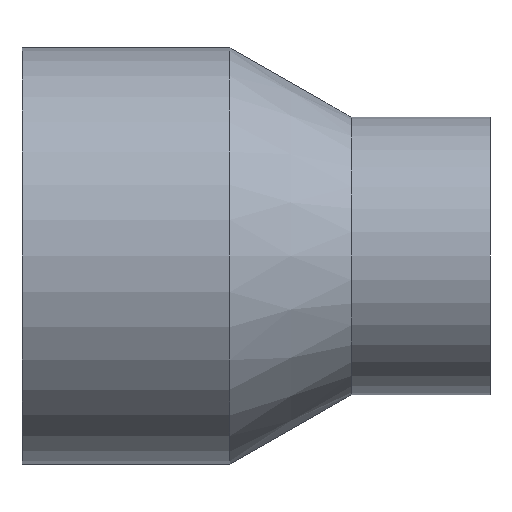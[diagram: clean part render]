
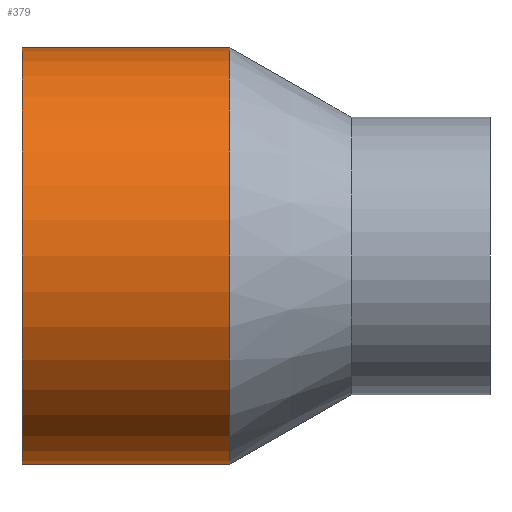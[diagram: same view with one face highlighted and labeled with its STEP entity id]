
A CAD part, front view. The second image highlights one B-rep face of the part: STEP entity #379.
In plain terms, the highlighted cylindrical face has radius 38.1 mm (diameter 76.2 mm), a partial arc.
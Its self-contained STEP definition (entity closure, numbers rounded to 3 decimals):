
#10 = DIRECTION ( 'NONE',  ( -1., 0., 0. ) ) ;
#17 = ORIENTED_EDGE ( 'NONE', *, *, #29, .F. ) ;
#26 = ORIENTED_EDGE ( 'NONE', *, *, #293, .T. ) ;
#29 = EDGE_CURVE ( 'NONE', #69, #163, #351, .T. ) ;
#53 = CARTESIAN_POINT ( 'NONE',  ( 0., 0., 38.1 ) ) ;
#58 = VERTEX_POINT ( 'NONE', #357 ) ;
#64 = CARTESIAN_POINT ( 'NONE',  ( 38.1, 0., -38.1 ) ) ;
#69 = VERTEX_POINT ( 'NONE', #161 ) ;
#82 = VECTOR ( 'NONE', #388, 1000. ) ;
#89 = AXIS2_PLACEMENT_3D ( 'NONE', #91, #288, #366 ) ;
#91 = CARTESIAN_POINT ( 'NONE',  ( 0., 0., 0. ) ) ;
#99 = DIRECTION ( 'NONE',  ( -1., 0., 0. ) ) ;
#106 = LINE ( 'NONE', #347, #148 ) ;
#107 = EDGE_CURVE ( 'NONE', #385, #58, #129, .T. ) ;
#111 = AXIS2_PLACEMENT_3D ( 'NONE', #194, #99, #265 ) ;
#128 = DIRECTION ( 'NONE',  ( 0., 0., 1. ) ) ;
#129 = CIRCLE ( 'NONE', #111, 38.1 ) ;
#148 = VECTOR ( 'NONE', #267, 1000. ) ;
#161 = CARTESIAN_POINT ( 'NONE',  ( 0., 0., -38.1 ) ) ;
#163 = VERTEX_POINT ( 'NONE', #53 ) ;
#165 = LINE ( 'NONE', #380, #82 ) ;
#181 = ORIENTED_EDGE ( 'NONE', *, *, #340, .F. ) ;
#194 = CARTESIAN_POINT ( 'NONE',  ( 38.1, 0., 0. ) ) ;
#240 = AXIS2_PLACEMENT_3D ( 'NONE', #393, #10, #128 ) ;
#247 = CYLINDRICAL_SURFACE ( 'NONE', #240, 38.1 ) ;
#265 = DIRECTION ( 'NONE',  ( 0., 0., 1. ) ) ;
#267 = DIRECTION ( 'NONE',  ( -1., 0., 0. ) ) ;
#276 = ORIENTED_EDGE ( 'NONE', *, *, #107, .T. ) ;
#282 = FACE_OUTER_BOUND ( 'NONE', #403, .T. ) ;
#288 = DIRECTION ( 'NONE',  ( -1., 0., 0. ) ) ;
#293 = EDGE_CURVE ( 'NONE', #58, #163, #165, .T. ) ;
#340 = EDGE_CURVE ( 'NONE', #385, #69, #106, .T. ) ;
#347 = CARTESIAN_POINT ( 'NONE',  ( -63.937, 0., -38.1 ) ) ;
#351 = CIRCLE ( 'NONE', #89, 38.1 ) ;
#357 = CARTESIAN_POINT ( 'NONE',  ( 38.1, 0., 38.1 ) ) ;
#366 = DIRECTION ( 'NONE',  ( 0., 0., 1. ) ) ;
#379 = ADVANCED_FACE ( 'NONE', ( #282 ), #247, .T. ) ;
#380 = CARTESIAN_POINT ( 'NONE',  ( -63.937, 0., 38.1 ) ) ;
#385 = VERTEX_POINT ( 'NONE', #64 ) ;
#388 = DIRECTION ( 'NONE',  ( -1., 0., 0. ) ) ;
#393 = CARTESIAN_POINT ( 'NONE',  ( -63.937, 0., 0. ) ) ;
#403 = EDGE_LOOP ( 'NONE', ( #181, #276, #26, #17 ) ) ;
